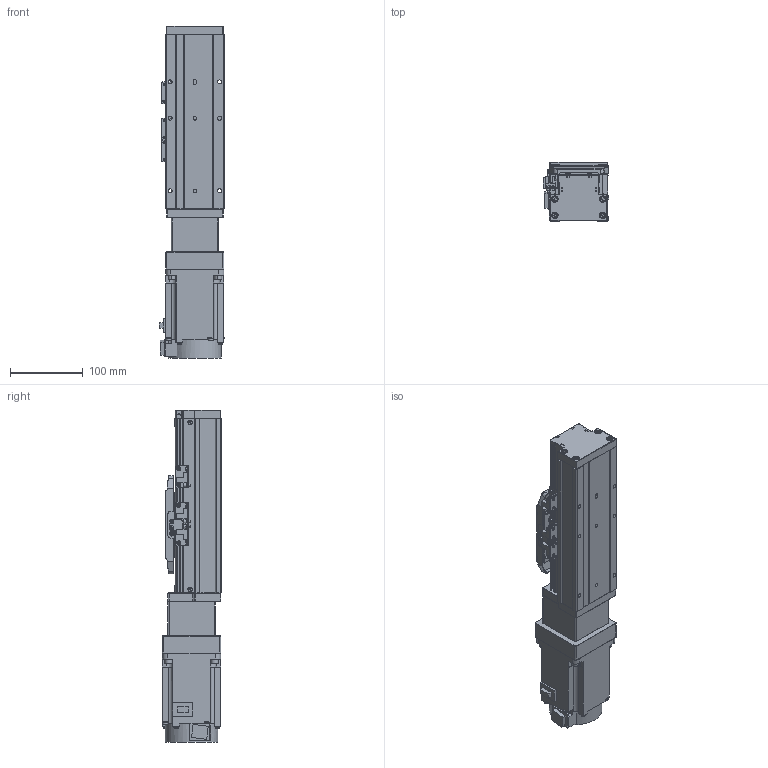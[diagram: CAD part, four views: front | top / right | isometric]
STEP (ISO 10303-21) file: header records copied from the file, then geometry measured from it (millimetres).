
FILE_DESCRIPTION (( 'STEP AP203' ), '1' );
FILE_NAME ('GTH8-50-BC-M75-C4.step', '2023-02-14T02:19:42', ( '微软用户' ), ( '微软中国' ), 'SwSTEP 2.0', 'SolidWorks 2020', '' );
FILE_SCHEMA (( 'CONFIG_CONTROL_DESIGN' ));
Length unit declared in the file: millimetre
Products named in the file (19): GTH80-006; GTH50-024; hg-kn73j_-s100; GTH80-013; GTH50-023; GTH8-50-BC-M75-C4; GBT 70.3-M3℅6; GBT96.1-2002 3×0.8; GTH80-022; BTH-M3X5X6; GTH80-001_50; GBT 70.1-M3℅6; CTHA86-006-1_CTHA86-006-4; GTH80-003; GBT 70.1-M4×16; CTHA86-013; GTH80-004; GTH80-028; CTHA86-027
Assembly tree (60 placements, depth 2):
  GTH8-50-BC-M75-C4
    GTH80-001_50
    GTH80-003
    GTH80-004
    GTH80-006
    GTH80-013
    GBT 70.3-M3℅6  x6
    GTH80-022
    GBT 70.1-M3℅6  x14
    GBT 70.1-M4×16  x8
    GTH80-028  x2
    GTH50-024  x3
    GTH50-023  x3
    GBT96.1-2002 3×0.8  x6
    BTH-M3X5X6  x8
    CTHA86-006-1_CTHA86-006-4
    CTHA86-013
    CTHA86-027
    hg-kn73j_-s100
Bounding box: 89.8 x 81.72 x 457.2 mm (x, y, z)
Volume: 2268260.9 mm3; surface area: 292844.9 mm2
Topology: 62 solids, 62 shells, 2237 faces, 5138 edges, 3128 vertices
Faces by surface type: plane 1185, cylinder 595, cone 285, torus 162, sphere 8, bspline 2
Entity records: 38897 total; most frequent: CARTESIAN_POINT 6410, DIRECTION 6391, ORIENTED_EDGE 5866, EDGE_CURVE 2933, AXIS2_PLACEMENT_3D 2227, VECTOR 1937, LINE 1937, VERTEX_POINT 1841
